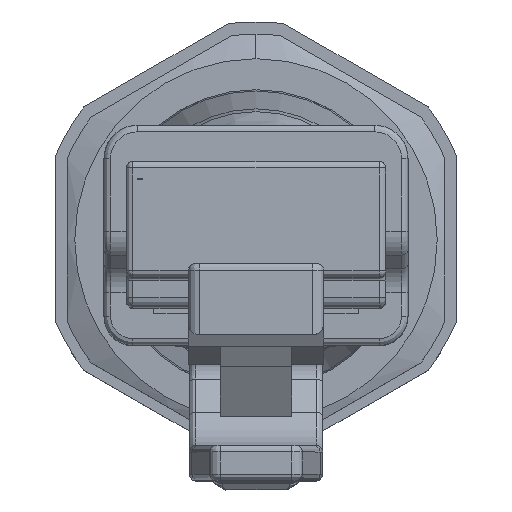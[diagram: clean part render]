
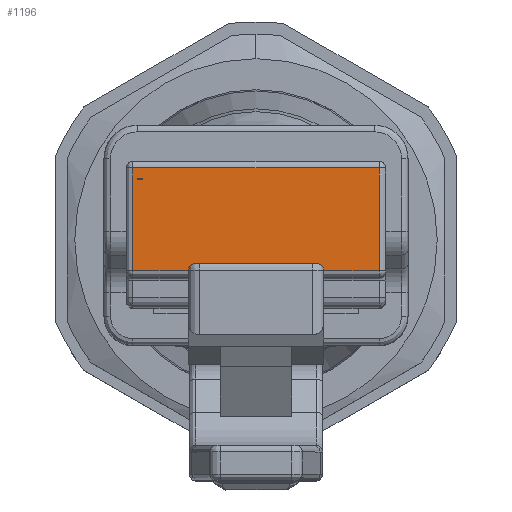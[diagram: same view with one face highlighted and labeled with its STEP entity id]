
A CAD part, top view. The second image highlights one B-rep face of the part: STEP entity #1196.
In plain terms, the highlighted planar face has unit normal (0, 0, 1).
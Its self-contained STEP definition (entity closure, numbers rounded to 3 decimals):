
#332=PLANE('',#14341);
#528=FACE_BOUND('',#2813,.T.);
#529=FACE_BOUND('',#2814,.T.);
#1196=ADVANCED_FACE('',(#528,#529),#332,.F.);
#2813=EDGE_LOOP('',(#7326,#7327,#7328,#7329));
#2814=EDGE_LOOP('',(#7330,#7331,#7332,#7333,#7334,#7335,#7336,#7337,#7338,
#7339));
#3610=CIRCLE('',#14339,0.3);
#3611=CIRCLE('',#14340,0.3);
#4338=LINE('',#37656,#5228);
#4339=LINE('',#37663,#5229);
#4343=LINE('',#37676,#5233);
#4346=LINE('',#37689,#5236);
#4347=LINE('',#37691,#5237);
#4367=LINE('',#37766,#5257);
#4368=LINE('',#37771,#5258);
#4369=LINE('',#37772,#5259);
#4370=LINE('',#37773,#5260);
#5228=VECTOR('',#16355,1.);
#5229=VECTOR('',#16362,1.);
#5233=VECTOR('',#16372,1.);
#5236=VECTOR('',#16383,1.);
#5237=VECTOR('',#16386,1.);
#5257=VECTOR('',#16448,1.);
#5258=VECTOR('',#16453,1.);
#5259=VECTOR('',#16454,1.);
#5260=VECTOR('',#16455,1.);
#7326=ORIENTED_EDGE('',*,*,#12072,.F.);
#7327=ORIENTED_EDGE('',*,*,#12071,.F.);
#7328=ORIENTED_EDGE('',*,*,#12070,.F.);
#7329=ORIENTED_EDGE('',*,*,#12073,.F.);
#7330=ORIENTED_EDGE('',*,*,#12069,.F.);
#7331=ORIENTED_EDGE('',*,*,#12103,.F.);
#7332=ORIENTED_EDGE('',*,*,#12104,.F.);
#7333=ORIENTED_EDGE('',*,*,#12063,.F.);
#7334=ORIENTED_EDGE('',*,*,#12105,.F.);
#7335=ORIENTED_EDGE('',*,*,#12106,.F.);
#7336=ORIENTED_EDGE('',*,*,#12057,.F.);
#7337=ORIENTED_EDGE('',*,*,#12107,.F.);
#7338=ORIENTED_EDGE('',*,*,#12054,.F.);
#7339=ORIENTED_EDGE('',*,*,#12108,.F.);
#10465=VERTEX_POINT('',#37655);
#10466=VERTEX_POINT('',#37657);
#10468=VERTEX_POINT('',#37662);
#10469=VERTEX_POINT('',#37664);
#10474=VERTEX_POINT('',#37675);
#10475=VERTEX_POINT('',#37677);
#10478=VERTEX_POINT('',#37684);
#10480=VERTEX_POINT('',#37688);
#10481=VERTEX_POINT('',#37692);
#10482=VERTEX_POINT('',#37693);
#10483=VERTEX_POINT('',#37698);
#10484=VERTEX_POINT('',#37703);
#10503=VERTEX_POINT('',#37767);
#10504=VERTEX_POINT('',#37770);
#12054=EDGE_CURVE('',#10465,#10466,#4338,.T.);
#12057=EDGE_CURVE('',#10468,#10469,#4339,.T.);
#12063=EDGE_CURVE('',#10474,#10475,#4343,.T.);
#12069=EDGE_CURVE('',#10480,#10478,#4346,.T.);
#12070=EDGE_CURVE('',#10481,#10482,#4347,.T.);
#12071=EDGE_CURVE('',#10482,#10483,#13609,.T.);
#12072=EDGE_CURVE('',#10483,#10484,#13610,.T.);
#12073=EDGE_CURVE('',#10484,#10481,#13611,.T.);
#12103=EDGE_CURVE('',#10503,#10480,#4367,.T.);
#12104=EDGE_CURVE('',#10475,#10503,#3610,.T.);
#12105=EDGE_CURVE('',#10504,#10474,#3611,.T.);
#12106=EDGE_CURVE('',#10469,#10504,#4368,.T.);
#12107=EDGE_CURVE('',#10466,#10468,#4369,.T.);
#12108=EDGE_CURVE('',#10478,#10465,#4370,.T.);
#13609=B_SPLINE_CURVE_WITH_KNOTS('',3,(#37694,#37695,#37696,#37697),
 .UNSPECIFIED.,.F.,.F.,(4,4),(0.,1.),.UNSPECIFIED.);
#13610=B_SPLINE_CURVE_WITH_KNOTS('',3,(#37699,#37700,#37701,#37702),
 .UNSPECIFIED.,.F.,.F.,(4,4),(0.,1.),.UNSPECIFIED.);
#13611=B_SPLINE_CURVE_WITH_KNOTS('',3,(#37704,#37705,#37706,#37707),
 .UNSPECIFIED.,.F.,.F.,(4,4),(0.,1.),.UNSPECIFIED.);
#14339=AXIS2_PLACEMENT_3D('',#37768,#16449,#16450);
#14340=AXIS2_PLACEMENT_3D('',#37769,#16451,#16452);
#14341=AXIS2_PLACEMENT_3D('',#37774,#16456,#16457);
#16355=DIRECTION('',(1.,0.,0.));
#16362=DIRECTION('',(-1.,0.,0.));
#16372=DIRECTION('',(-1.,0.,0.));
#16383=DIRECTION('',(-1.,0.,0.));
#16386=DIRECTION('',(1.,0.,0.));
#16448=DIRECTION('',(0.,-1.,0.));
#16449=DIRECTION('',(0.,0.,1.));
#16450=DIRECTION('',(1.,0.,0.));
#16451=DIRECTION('',(0.,0.,1.));
#16452=DIRECTION('',(-1.,0.,0.));
#16453=DIRECTION('',(0.,1.,0.));
#16454=DIRECTION('',(0.,-1.,0.));
#16455=DIRECTION('',(0.,1.,0.));
#16456=DIRECTION('',(0.,0.,-1.));
#16457=DIRECTION('',(1.,0.,0.));
#37655=CARTESIAN_POINT('',(-5.54,3.,149.));
#37656=CARTESIAN_POINT('',(5.89,3.,149.));
#37657=CARTESIAN_POINT('',(5.54,3.,149.));
#37662=CARTESIAN_POINT('',(5.54,-1.63,149.));
#37663=CARTESIAN_POINT('',(5.89,-1.63,149.));
#37664=CARTESIAN_POINT('',(3.05,-1.63,149.));
#37675=CARTESIAN_POINT('',(2.75,-1.3,149.));
#37676=CARTESIAN_POINT('',(5.89,-1.3,149.));
#37677=CARTESIAN_POINT('',(-2.75,-1.3,149.));
#37684=CARTESIAN_POINT('',(-5.54,-1.63,149.));
#37688=CARTESIAN_POINT('',(-3.05,-1.63,149.));
#37689=CARTESIAN_POINT('',(5.89,-1.63,149.));
#37691=CARTESIAN_POINT('',(5.89,2.5,149.));
#37692=CARTESIAN_POINT('',(-5.34,2.5,149.));
#37693=CARTESIAN_POINT('',(-5.09,2.5,149.));
#37694=CARTESIAN_POINT('',(-5.09,2.5,149.));
#37695=CARTESIAN_POINT('',(-5.09,2.502,149.));
#37696=CARTESIAN_POINT('',(-5.09,2.504,149.));
#37697=CARTESIAN_POINT('',(-5.09,2.506,149.));
#37698=CARTESIAN_POINT('',(-5.09,2.506,149.));
#37699=CARTESIAN_POINT('',(-5.09,2.506,149.));
#37700=CARTESIAN_POINT('',(-5.173,2.506,149.));
#37701=CARTESIAN_POINT('',(-5.257,2.506,149.));
#37702=CARTESIAN_POINT('',(-5.34,2.506,149.));
#37703=CARTESIAN_POINT('',(-5.34,2.506,149.));
#37704=CARTESIAN_POINT('',(-5.34,2.506,149.));
#37705=CARTESIAN_POINT('',(-5.34,2.504,149.));
#37706=CARTESIAN_POINT('',(-5.34,2.502,149.));
#37707=CARTESIAN_POINT('',(-5.34,2.5,149.));
#37766=CARTESIAN_POINT('',(-3.05,2.5,149.));
#37767=CARTESIAN_POINT('',(-3.05,-1.6,149.));
#37768=CARTESIAN_POINT('',(-2.75,-1.6,149.));
#37769=CARTESIAN_POINT('',(2.75,-1.6,149.));
#37770=CARTESIAN_POINT('',(3.05,-1.6,149.));
#37771=CARTESIAN_POINT('',(3.05,2.5,149.));
#37772=CARTESIAN_POINT('',(5.54,-23.11,149.));
#37773=CARTESIAN_POINT('',(-5.54,18.245,149.));
#37774=CARTESIAN_POINT('',(5.89,2.5,149.));
